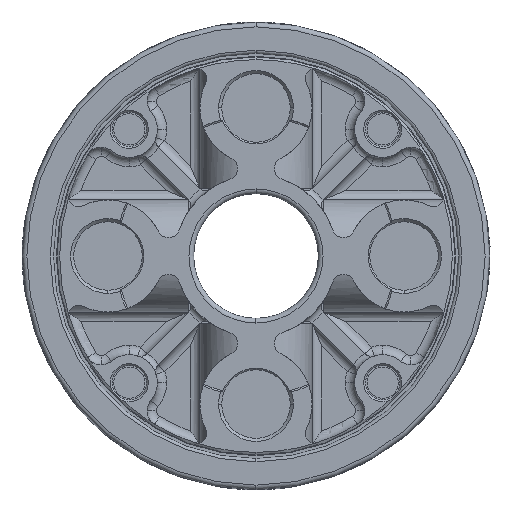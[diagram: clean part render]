
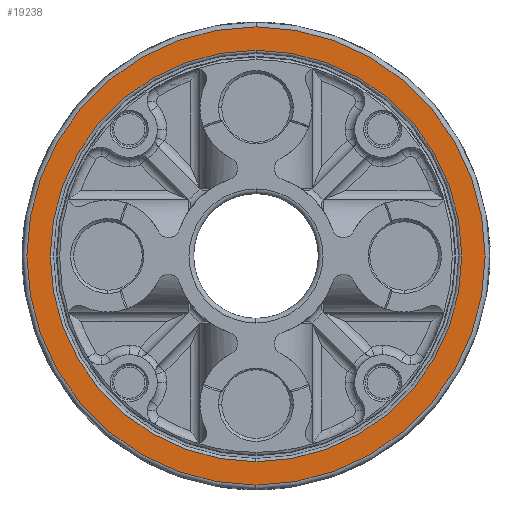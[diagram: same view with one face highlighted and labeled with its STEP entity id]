
A CAD part, left-side view. The second image highlights one B-rep face of the part: STEP entity #19238.
In plain terms, the highlighted planar face has unit normal (-1, 0, 0).
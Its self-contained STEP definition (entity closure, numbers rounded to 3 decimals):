
#396 = AXIS2_PLACEMENT_3D ( 'NONE', #5286, #38478, #17522 ) ;
#926 = DIRECTION ( 'NONE',  ( 0., 0., -1. ) ) ;
#1975 = ORIENTED_EDGE ( 'NONE', *, *, #16419, .T. ) ;
#2096 = DIRECTION ( 'NONE',  ( 0., 0., -1. ) ) ;
#2980 = CARTESIAN_POINT ( 'NONE',  ( -60., 0., 73.5 ) ) ;
#3570 = CIRCLE ( 'NONE', #27314, 66. ) ;
#5286 = CARTESIAN_POINT ( 'NONE',  ( -60., 0., 0. ) ) ;
#6965 = CARTESIAN_POINT ( 'NONE',  ( -60., 46.669, -46.669 ) ) ;
#7356 = FACE_OUTER_BOUND ( 'NONE', #16459, .T. ) ;
#10456 = ORIENTED_EDGE ( 'NONE', *, *, #36490, .F. ) ;
#11324 = EDGE_LOOP ( 'NONE', ( #16277, #1975 ) ) ;
#11360 = VERTEX_POINT ( 'NONE', #13353 ) ;
#13154 = CARTESIAN_POINT ( 'NONE',  ( -60., 0., 0. ) ) ;
#13353 = CARTESIAN_POINT ( 'NONE',  ( -60., 0., -73.5 ) ) ;
#14993 = CIRCLE ( 'NONE', #38129, 73.5 ) ;
#15777 = DIRECTION ( 'NONE',  ( 1., 0., 0. ) ) ;
#16277 = ORIENTED_EDGE ( 'NONE', *, *, #37808, .T. ) ;
#16419 = EDGE_CURVE ( 'NONE', #38331, #25424, #20285, .T. ) ;
#16459 = EDGE_LOOP ( 'NONE', ( #10456, #21146 ) ) ;
#16569 = DIRECTION ( 'NONE',  ( 1., 0., 0. ) ) ;
#17522 = DIRECTION ( 'NONE',  ( 0., 0., -1. ) ) ;
#18326 = AXIS2_PLACEMENT_3D ( 'NONE', #29613, #16569, #2096 ) ;
#18585 = DIRECTION ( 'NONE',  ( 0., 0., -1. ) ) ;
#19238 = ADVANCED_FACE ( 'NONE', ( #7356, #22207 ), #25030, .F. ) ;
#19373 = DIRECTION ( 'NONE',  ( 1., 0., 0. ) ) ;
#20285 = CIRCLE ( 'NONE', #396, 66. ) ;
#21146 = ORIENTED_EDGE ( 'NONE', *, *, #37612, .F. ) ;
#22207 = FACE_BOUND ( 'NONE', #11324, .T. ) ;
#23985 = DIRECTION ( 'NONE',  ( 1., 0., 0. ) ) ;
#25030 = PLANE ( 'NONE',  #39100 ) ;
#25424 = VERTEX_POINT ( 'NONE', #32601 ) ;
#27202 = DIRECTION ( 'NONE',  ( 0., 0., -1. ) ) ;
#27314 = AXIS2_PLACEMENT_3D ( 'NONE', #33436, #23985, #27202 ) ;
#27556 = CARTESIAN_POINT ( 'NONE',  ( -60., 0., 66. ) ) ;
#29429 = VERTEX_POINT ( 'NONE', #2980 ) ;
#29613 = CARTESIAN_POINT ( 'NONE',  ( -60., 0., 0. ) ) ;
#32601 = CARTESIAN_POINT ( 'NONE',  ( -60., 0., -66. ) ) ;
#33436 = CARTESIAN_POINT ( 'NONE',  ( -60., 0., 0. ) ) ;
#36490 = EDGE_CURVE ( 'NONE', #11360, #29429, #14993, .T. ) ;
#36949 = CIRCLE ( 'NONE', #18326, 73.5 ) ;
#37612 = EDGE_CURVE ( 'NONE', #29429, #11360, #36949, .T. ) ;
#37808 = EDGE_CURVE ( 'NONE', #25424, #38331, #3570, .T. ) ;
#38129 = AXIS2_PLACEMENT_3D ( 'NONE', #13154, #19373, #18585 ) ;
#38331 = VERTEX_POINT ( 'NONE', #27556 ) ;
#38478 = DIRECTION ( 'NONE',  ( 1., 0., 0. ) ) ;
#39100 = AXIS2_PLACEMENT_3D ( 'NONE', #6965, #15777, #926 ) ;
